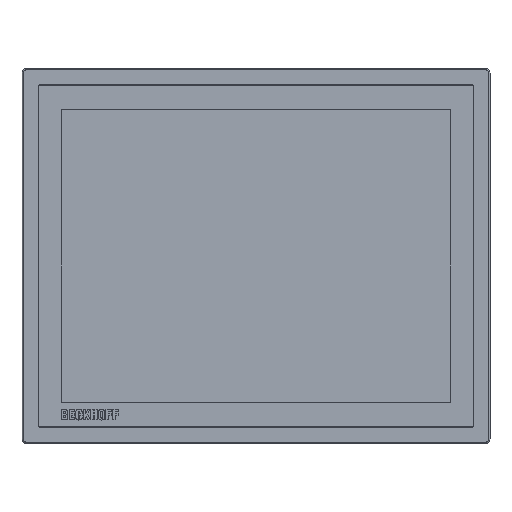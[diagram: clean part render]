
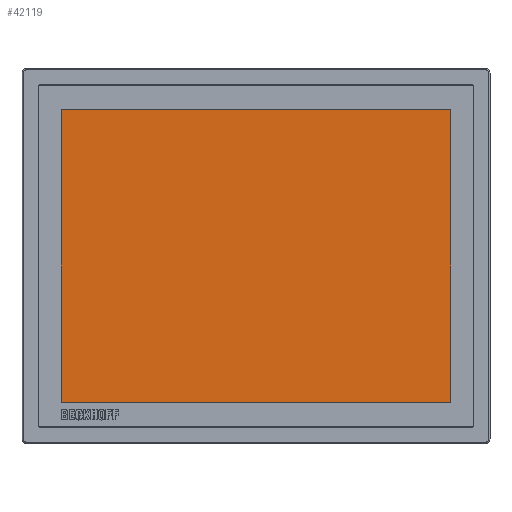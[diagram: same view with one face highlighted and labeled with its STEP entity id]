
A CAD part, top view. The second image highlights one B-rep face of the part: STEP entity #42119.
In plain terms, the highlighted planar face has unit normal (0, 0, 1).
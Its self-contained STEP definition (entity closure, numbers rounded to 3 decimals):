
#3476=FACE_OUTER_BOUND('',#5907,.T.);
#5907=EDGE_LOOP('',(#28051,#28052,#28053,#28054));
#9290=LINE('',#62449,#13374);
#9291=LINE('',#62451,#13375);
#9292=LINE('',#62453,#13376);
#9293=LINE('',#62454,#13377);
#13374=VECTOR('',#49524,10.);
#13375=VECTOR('',#49525,10.);
#13376=VECTOR('',#49526,10.);
#13377=VECTOR('',#49527,10.);
#17445=VERTEX_POINT('',#62447);
#17446=VERTEX_POINT('',#62448);
#17447=VERTEX_POINT('',#62450);
#17448=VERTEX_POINT('',#62452);
#21546=EDGE_CURVE('',#17445,#17446,#9290,.T.);
#21547=EDGE_CURVE('',#17447,#17445,#9291,.T.);
#21548=EDGE_CURVE('',#17448,#17447,#9292,.T.);
#21549=EDGE_CURVE('',#17446,#17448,#9293,.T.);
#28051=ORIENTED_EDGE('',*,*,#21546,.T.);
#28052=ORIENTED_EDGE('',*,*,#21549,.T.);
#28053=ORIENTED_EDGE('',*,*,#21548,.T.);
#28054=ORIENTED_EDGE('',*,*,#21547,.T.);
#38181=PLANE('',#44690);
#42119=ADVANCED_FACE('',(#3476),#38181,.T.);
#44690=AXIS2_PLACEMENT_3D('',#62554,#49642,#49643);
#49524=DIRECTION('',(0.,1.,0.));
#49525=DIRECTION('',(1.,0.,0.));
#49526=DIRECTION('',(0.,-1.,0.));
#49527=DIRECTION('',(-1.,0.,0.));
#49642=DIRECTION('center_axis',(0.,0.,
1.));
#49643=DIRECTION('ref_axis',(1.,0.,0.));
#62447=CARTESIAN_POINT('',(153.05,-115.05,-0.2));
#62448=CARTESIAN_POINT('',(153.05,115.05,-0.2));
#62449=CARTESIAN_POINT('',(153.05,57.525,-0.2));
#62450=CARTESIAN_POINT('',(-153.05,-115.05,-0.2));
#62451=CARTESIAN_POINT('',(76.525,-115.05,-0.2));
#62452=CARTESIAN_POINT('',(-153.05,115.05,-0.2));
#62453=CARTESIAN_POINT('',(-153.05,-57.525,-0.2));
#62454=CARTESIAN_POINT('',(-76.525,115.05,-0.2));
#62554=CARTESIAN_POINT('Origin',(0.,0.,
-0.2));
